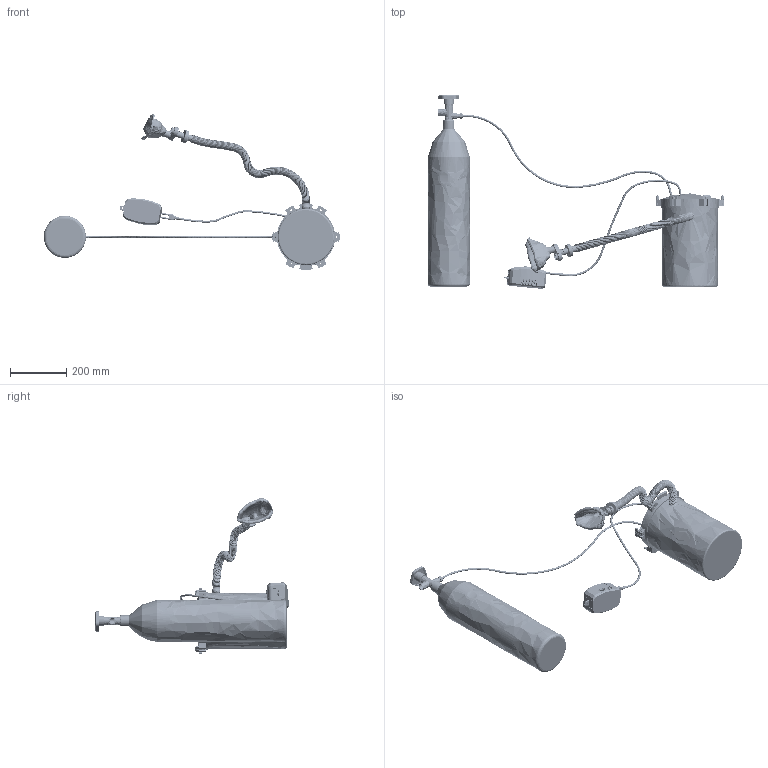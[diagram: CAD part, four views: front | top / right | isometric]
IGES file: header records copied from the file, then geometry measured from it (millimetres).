
Global section: file name: Home Ventilator CPAP 02; native system: Autodesk Inventor 2017; preprocessor: unknown; author: user; date: 20200330.183307; units: millimetre
Bounding box: 1055.77 x 688.67 x 554.33 mm (x, y, z)
Volume: 2261181.4 mm3; surface area: 1637232.6 mm2
Topology: 209 solids, 211 shells, 3151 faces, 10109 edges, 7906 vertices
Faces by surface type: bspline 3102, revolution 49
